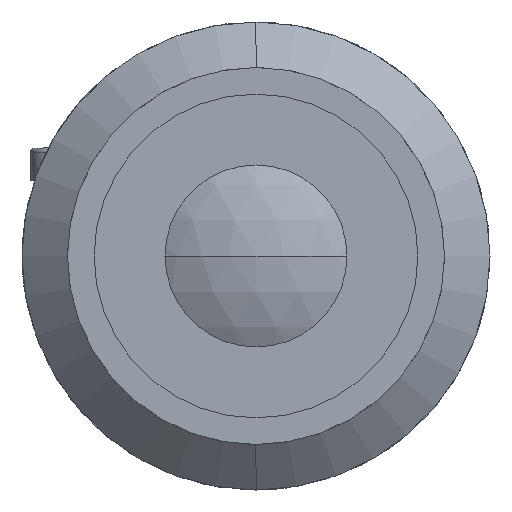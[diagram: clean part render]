
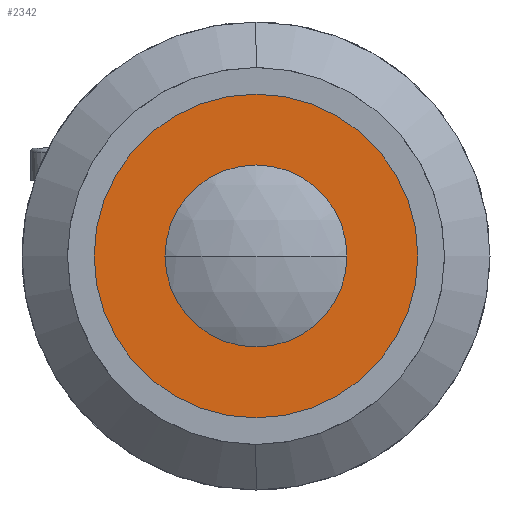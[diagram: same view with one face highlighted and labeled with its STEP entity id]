
A CAD part, left-side view. The second image highlights one B-rep face of the part: STEP entity #2342.
In plain terms, the highlighted planar face has unit normal (-1, 0, 0).
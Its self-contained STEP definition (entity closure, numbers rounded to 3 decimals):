
#173 = CARTESIAN_POINT ( 'NONE',  ( 3.8, 0., -7. ) ) ;
#264 = CARTESIAN_POINT ( 'NONE',  ( 3.8, 0., 0. ) ) ;
#320 = VERTEX_POINT ( 'NONE', #173 ) ;
#353 = EDGE_CURVE ( 'NONE', #446, #320, #928, .T. ) ;
#360 = EDGE_LOOP ( 'NONE', ( #1500, #1550 ) ) ;
#446 = VERTEX_POINT ( 'NONE', #2220 ) ;
#494 = DIRECTION ( 'NONE',  ( 0., 0., 1. ) ) ;
#511 = DIRECTION ( 'NONE',  ( -1., 0., 0. ) ) ;
#530 = CARTESIAN_POINT ( 'NONE',  ( 3.8, 0., 0. ) ) ;
#559 = DIRECTION ( 'NONE',  ( 0., 0., 1. ) ) ;
#571 = EDGE_CURVE ( 'NONE', #905, #1788, #3402, .T. ) ;
#881 = AXIS2_PLACEMENT_3D ( 'NONE', #1945, #3412, #1652 ) ;
#905 = VERTEX_POINT ( 'NONE', #2587 ) ;
#928 = CIRCLE ( 'NONE', #1964, 7. ) ;
#1362 = CARTESIAN_POINT ( 'NONE',  ( 3.8, 0., -13.5 ) ) ;
#1500 = ORIENTED_EDGE ( 'NONE', *, *, #353, .F. ) ;
#1516 = CARTESIAN_POINT ( 'NONE',  ( 3.8, 0., 0. ) ) ;
#1550 = ORIENTED_EDGE ( 'NONE', *, *, #3242, .F. ) ;
#1591 = ORIENTED_EDGE ( 'NONE', *, *, #571, .T. ) ;
#1638 = PLANE ( 'NONE',  #881 ) ;
#1652 = DIRECTION ( 'NONE',  ( 0., 0., -1. ) ) ;
#1684 = ORIENTED_EDGE ( 'NONE', *, *, #3037, .T. ) ;
#1788 = VERTEX_POINT ( 'NONE', #1362 ) ;
#1810 = DIRECTION ( 'NONE',  ( 0., 0., 1. ) ) ;
#1830 = AXIS2_PLACEMENT_3D ( 'NONE', #530, #511, #494 ) ;
#1945 = CARTESIAN_POINT ( 'NONE',  ( 3.8, 13.5, 0. ) ) ;
#1964 = AXIS2_PLACEMENT_3D ( 'NONE', #3094, #3084, #3059 ) ;
#2220 = CARTESIAN_POINT ( 'NONE',  ( 3.8, 0., 7. ) ) ;
#2335 = DIRECTION ( 'NONE',  ( -1., 0., 0. ) ) ;
#2342 = ADVANCED_FACE ( 'NONE', ( #3512, #2783 ), #1638, .F. ) ;
#2497 = CIRCLE ( 'NONE', #2674, 7. ) ;
#2587 = CARTESIAN_POINT ( 'NONE',  ( 3.8, 0., 13.5 ) ) ;
#2674 = AXIS2_PLACEMENT_3D ( 'NONE', #1516, #3543, #1810 ) ;
#2783 = FACE_OUTER_BOUND ( 'NONE', #3661, .T. ) ;
#2932 = AXIS2_PLACEMENT_3D ( 'NONE', #264, #2335, #559 ) ;
#3037 = EDGE_CURVE ( 'NONE', #1788, #905, #3067, .T. ) ;
#3059 = DIRECTION ( 'NONE',  ( 0., 0., 1. ) ) ;
#3067 = CIRCLE ( 'NONE', #2932, 13.5 ) ;
#3084 = DIRECTION ( 'NONE',  ( -1., 0., 0. ) ) ;
#3094 = CARTESIAN_POINT ( 'NONE',  ( 3.8, 0., 0. ) ) ;
#3242 = EDGE_CURVE ( 'NONE', #320, #446, #2497, .T. ) ;
#3402 = CIRCLE ( 'NONE', #1830, 13.5 ) ;
#3412 = DIRECTION ( 'NONE',  ( 1., 0., 0. ) ) ;
#3512 = FACE_BOUND ( 'NONE', #360, .T. ) ;
#3543 = DIRECTION ( 'NONE',  ( -1., 0., 0. ) ) ;
#3661 = EDGE_LOOP ( 'NONE', ( #1591, #1684 ) ) ;
